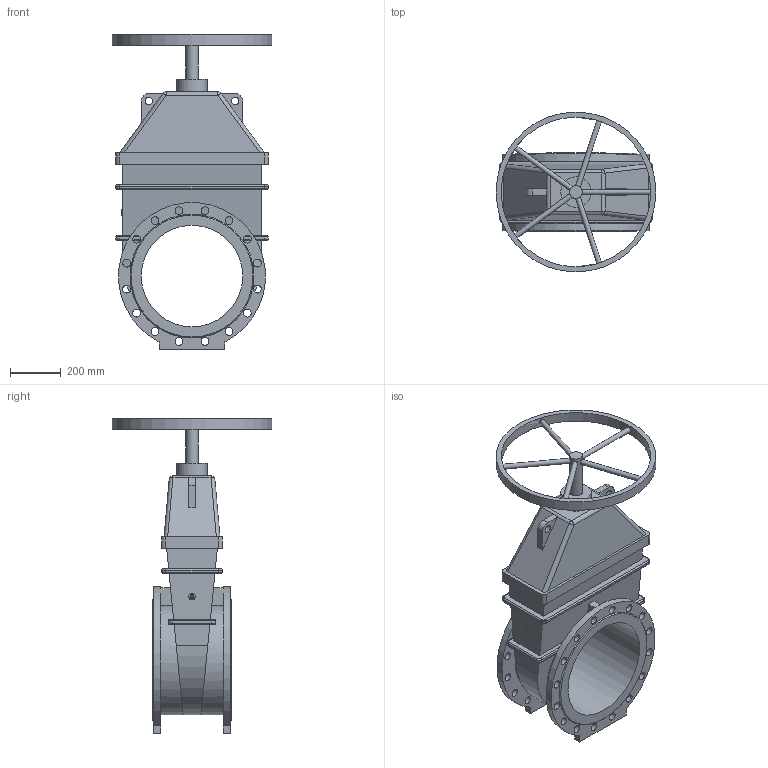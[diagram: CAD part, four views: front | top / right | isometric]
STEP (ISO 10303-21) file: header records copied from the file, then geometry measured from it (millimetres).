
FILE_DESCRIPTION(('STEP AP203'), '1');
FILE_NAME('Çàäâèæêà 47GV DN400 PN16_L310_W630 ñ ìàõîâèêîì', '', ('UNSPECIFIED'), ('UNSPECIFIED'), 'ASCON STEP Converter 1.6', 'ASCON Math Kernel', '');
FILE_SCHEMA(('CONFIG_CONTROL_DESIGN'));
Length unit declared in the file: millimetre
Bounding box: 630 x 630 x 1243 mm (x, y, z)
Volume: 72414904.3 mm3; surface area: 2776462.5 mm2
Topology: 1 solids, 1 shells, 201 faces, 513 edges, 324 vertices
Faces by surface type: cylinder 98, plane 81, bspline 12, torus 8, cone 2
Full cylindrical faces by diameter (mm): 20 x5, 30 x2, 31 x32, 50 x1, 120 x1, 400 x1, 590 x1, 630 x1
Entity records: 9975 total; most frequent: CARTESIAN_POINT 3550, DIRECTION 956, ORIENTED_EDGE 924, EDGE_CURVE 462, AXIS2_PLACEMENT_3D 364, EDGE_LOOP 342, VERTEX_POINT 324, FACE_BOUND 251
